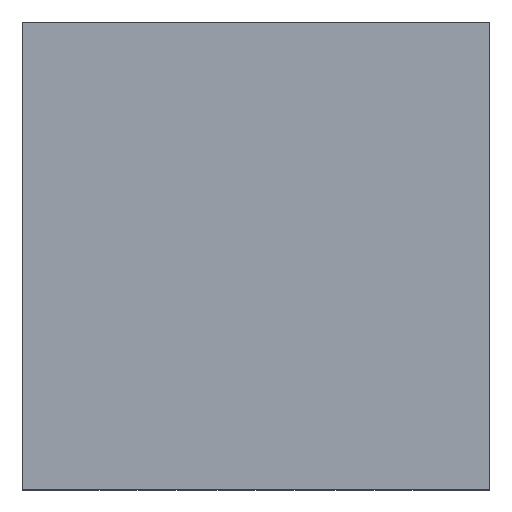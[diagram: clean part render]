
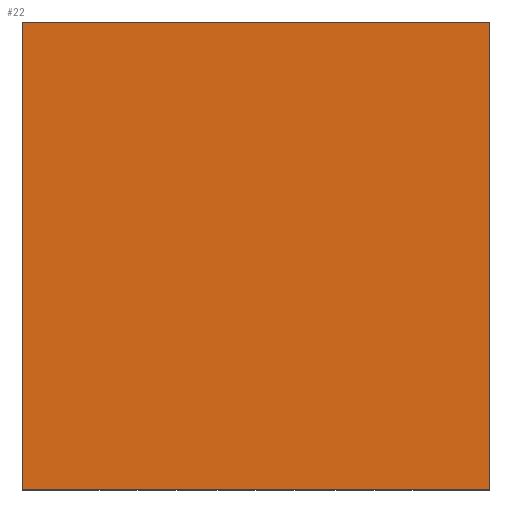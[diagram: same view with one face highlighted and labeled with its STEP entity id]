
A CAD part, top view. The second image highlights one B-rep face of the part: STEP entity #22.
In plain terms, the highlighted planar face has unit normal (0, 0, 1).
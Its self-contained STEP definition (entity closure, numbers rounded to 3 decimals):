
#22 = ADVANCED_FACE ( 'Defeatured_0_5', ( #2571 ), #7187, .F. ) ;
#337 = EDGE_LOOP ( 'NONE', ( #3752, #6766, #1633, #4904 ) ) ;
#884 = VERTEX_POINT ( 'NONE', #5556 ) ;
#1633 = ORIENTED_EDGE ( 'NONE', *, *, #2775, .T. ) ;
#1822 = LINE ( 'NONE', #4168, #10671 ) ;
#2571 = FACE_OUTER_BOUND ( 'NONE', #337, .T. ) ;
#2675 = CARTESIAN_POINT ( 'NONE',  ( -0.415, 3.999, 3.73 ) ) ;
#2749 = VECTOR ( 'NONE', #3950, 1000. ) ;
#2775 = EDGE_CURVE ( 'Defeatured_0_5+Defeatured_0_3+Defeatured_0_2+Defeatured_0_4', #9397, #884, #7051, .T. ) ;
#2940 = EDGE_CURVE ( 'Defeatured_0_5+Defeatured_0_4+Defeatured_0_3+Defeatured_0_1', #884, #10338, #1822, .T. ) ;
#2952 = CARTESIAN_POINT ( 'NONE',  ( 3.585, -0.001, 3.73 ) ) ;
#3032 = VECTOR ( 'NONE', #8103, 1000. ) ;
#3743 = CARTESIAN_POINT ( 'NONE',  ( -0.415, 3.999, 3.73 ) ) ;
#3752 = ORIENTED_EDGE ( 'NONE', *, *, #10759, .T. ) ;
#3936 = DIRECTION ( 'NONE',  ( -1., 0., 0. ) ) ;
#3950 = DIRECTION ( 'NONE',  ( 0., -1., 0. ) ) ;
#4168 = CARTESIAN_POINT ( 'NONE',  ( -0.415, -0.001, 3.73 ) ) ;
#4904 = ORIENTED_EDGE ( 'NONE', *, *, #2940, .T. ) ;
#5556 = CARTESIAN_POINT ( 'NONE',  ( -0.415, -0.001, 3.73 ) ) ;
#6219 = AXIS2_PLACEMENT_3D ( 'NONE', #6477, #7412, #3936 ) ;
#6410 = CARTESIAN_POINT ( 'NONE',  ( 3.585, -0.001, 3.73 ) ) ;
#6477 = CARTESIAN_POINT ( 'NONE',  ( 1.585, 1.999, 3.73 ) ) ;
#6766 = ORIENTED_EDGE ( 'NONE', *, *, #6789, .T. ) ;
#6789 = EDGE_CURVE ( 'Defeatured_0_5+Defeatured_0_2+Defeatured_0_1+Defeatured_0_3', #9693, #9397, #10292, .T. ) ;
#7051 = LINE ( 'NONE', #10861, #2749 ) ;
#7187 = PLANE ( 'NONE',  #6219 ) ;
#7412 = DIRECTION ( 'NONE',  ( 0., 0., -1. ) ) ;
#8103 = DIRECTION ( 'NONE',  ( -1., 0., 0. ) ) ;
#8950 = DIRECTION ( 'NONE',  ( 0., 1., 0. ) ) ;
#9223 = LINE ( 'NONE', #2952, #9601 ) ;
#9397 = VERTEX_POINT ( 'NONE', #2675 ) ;
#9601 = VECTOR ( 'NONE', #8950, 1000. ) ;
#9693 = VERTEX_POINT ( 'NONE', #10772 ) ;
#10152 = DIRECTION ( 'NONE',  ( 1., 0., 0. ) ) ;
#10292 = LINE ( 'NONE', #3743, #3032 ) ;
#10338 = VERTEX_POINT ( 'NONE', #6410 ) ;
#10671 = VECTOR ( 'NONE', #10152, 1000. ) ;
#10759 = EDGE_CURVE ( 'Defeatured_0_5+Defeatured_0_1+Defeatured_0_4+Defeatured_0_2', #10338, #9693, #9223, .T. ) ;
#10772 = CARTESIAN_POINT ( 'NONE',  ( 3.585, 3.999, 3.73 ) ) ;
#10861 = CARTESIAN_POINT ( 'NONE',  ( -0.415, -0.001, 3.73 ) ) ;
